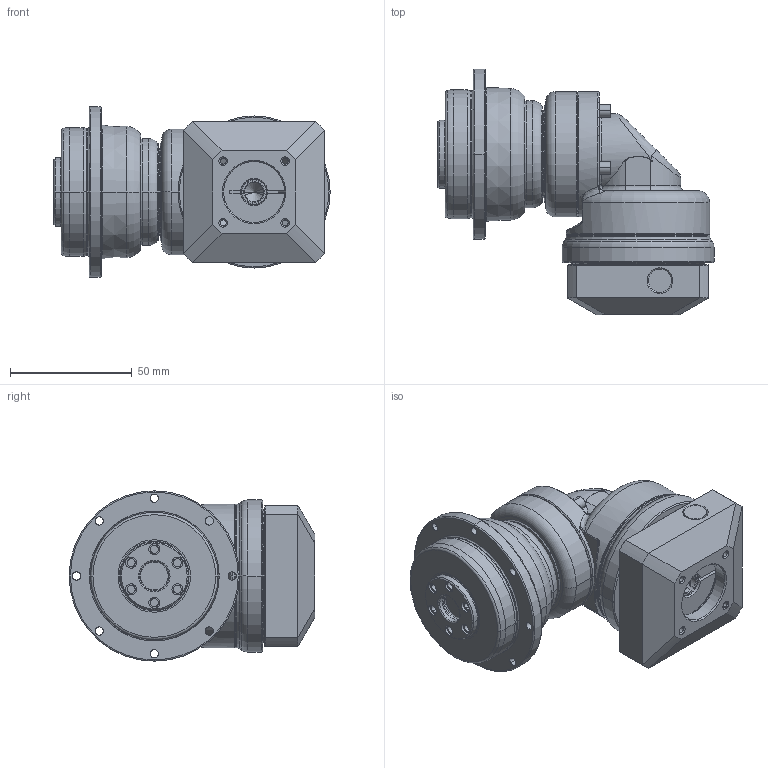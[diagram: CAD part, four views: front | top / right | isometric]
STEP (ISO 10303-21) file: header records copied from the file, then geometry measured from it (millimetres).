
FILE_DESCRIPTION((''),'2;1');
FILE_NAME('PDR053_1ST_8-P0411100101_ASM','2016-06-04T',('d01943'),(''),'PRO/ENGINEER BY PARAMETRIC TECHNOLOGY CORPORATION, 2008410','PRO/ENGINEER BY PARAMETRIC TECHNOLOGY CORPORATION, 2008410','');
FILE_SCHEMA(('CONFIG_CONTROL_DESIGN'));
Length unit declared in the file: millimetre
Products named in the file (10): P1355100001; P0367100001; P0274100001; P1349100001; P1017100001; P1350100001; P0411100101; P0503100005; P0713100001; PDR053_1ST_8-P0411100101_ASM
Assembly tree (9 placements, depth 2):
  PDR053_1ST_8-P0411100101_ASM
    P1355100001
    P0367100001
    P0274100001
    P1349100001
    P1017100001
    P1350100001
    P0411100101
    P0503100005
    P0713100001
Bounding box: 113.55 x 101 x 70 mm (x, y, z)
Volume: 262970.3 mm3; surface area: 71551.5 mm2
Topology: 9 solids, 9 shells, 505 faces, 1167 edges, 691 vertices
Faces by surface type: cylinder 168, cone 138, plane 84, torus 84, bspline 31
Entity records: 17250 total; most frequent: CARTESIAN_POINT 5622, DIRECTION 2552, ORIENTED_EDGE 2278, EDGE_CURVE 1139, AXIS2_PLACEMENT_3D 1093, VERTEX_POINT 691, CIRCLE 600, EDGE_LOOP 592
